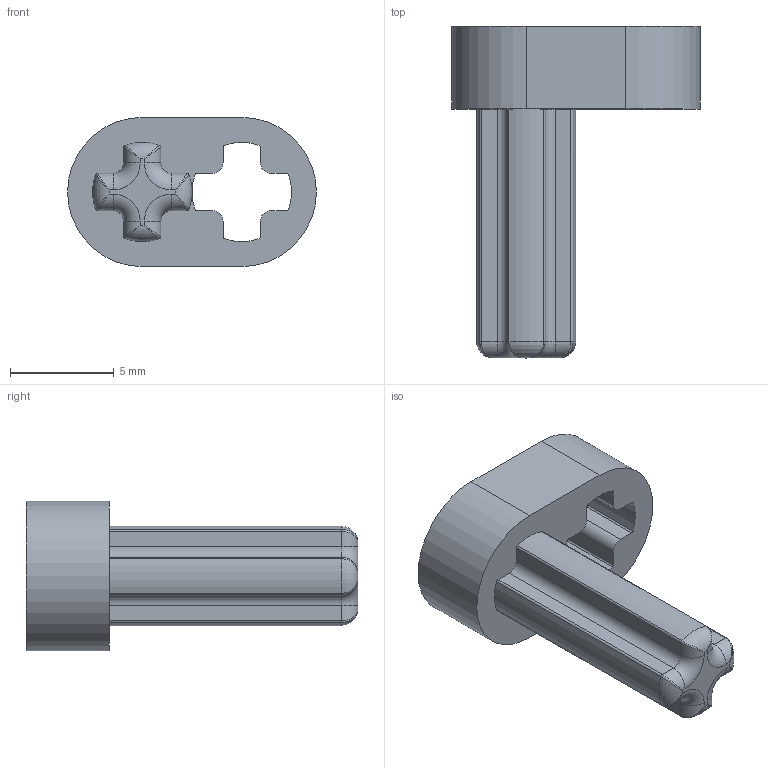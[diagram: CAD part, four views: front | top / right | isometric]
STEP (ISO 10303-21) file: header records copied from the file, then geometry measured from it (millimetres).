
FILE_DESCRIPTION(/* description */ ('Unknown'),/* implementation_level */ '2;1');
FILE_NAME(/* name */ 'Ye_4119474_JCA',/* time_stamp */ '2025-07-22T00:06:59+02:00',/* author */ ('Unknown'),/* organization */ ('Unknown'),/* preprocessor_version */ 'ST-DEVELOPER v19.4',/* originating_system */ 'Solid Edge',/* authorisation */ 'Unknown');
FILE_SCHEMA (('AUTOMOTIVE_DESIGN {1 0 10303 214 3 1 1}'));
Length unit declared in the file: millimetre
Products named in the file (1): Ye_4119474_JCA
Bounding box: 12 x 16 x 7.2 mm (x, y, z)
Volume: 409.6 mm3; surface area: 517.3 mm2
Topology: 1 solids, 1 shells, 79 faces, 206 edges, 121 vertices
Faces by surface type: cylinder 42, plane 21, torus 8, bspline 8
Entity records: 2500 total; most frequent: CARTESIAN_POINT 575, DIRECTION 412, ORIENTED_EDGE 396, EDGE_CURVE 198, AXIS2_PLACEMENT_3D 158, VERTEX_POINT 121, LINE 96, VECTOR 96
